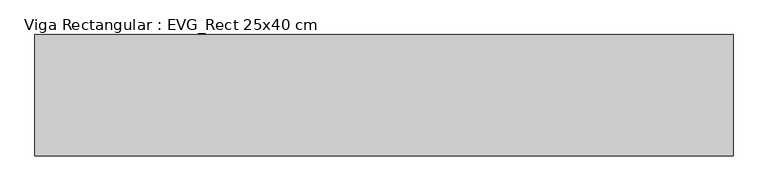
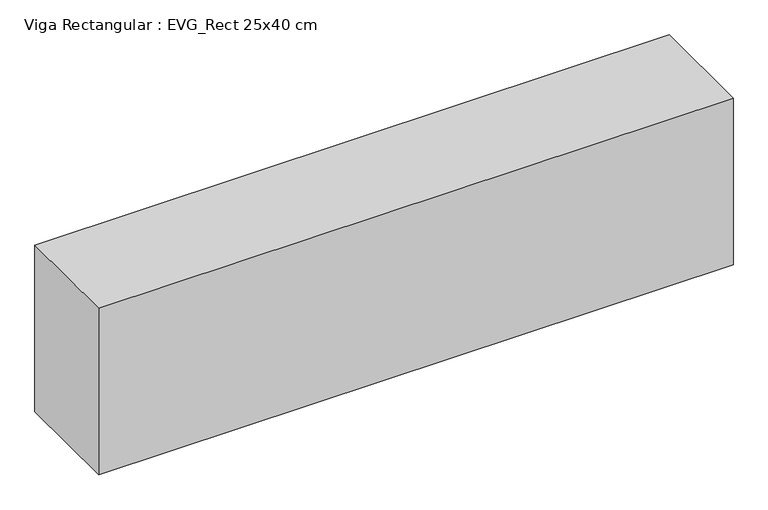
"""IFC4 building model written with IfcOpenShell, lengths in millimetres: beam geometry, Viga Rectangular : EVG_Rect 25x40 cm."""

from ifc_helpers import new_model, si_unit, frame, origin, place, context, project, spatial, polyline, outline, extrude, source, transform, mapped, element, save


def viga_rectangular_evg_rect_25x40_cm_6a1f8600(model_context):
    return source(origin(), model_context, "Body", "SweptSolid", [
        extrude(outline(polyline([(760.0, 125.0), (760.0, -125.0), (-680.0, -125.0), (-680.0, 125.0), (760.0, 125.0)])), frame((0.0, 0.0, -400.0), z_axis=(0.0, 0.0, 1.0), x_axis=(1.0, 0.0, 0.0)), (0.0, 0.0, 1.0), 400.0),
    ])


if __name__ == "__main__":
    model = new_model("IFC4")
    model_context = context("Model", 3, world=origin())
    ifc_project = project(units=[si_unit("LENGTHUNIT", "METRE", prefix="MILLI")], contexts=[model_context])
    site = spatial("IfcSite", under=ifc_project)
    building = spatial("IfcBuilding", under=site)
    placement = place(None, origin())
    viga_rectangular_evg_rect_25x40_cm_shape = viga_rectangular_evg_rect_25x40_cm_6a1f8600(model_context)
    element("IfcBeam", 1, ObjectType="Viga Rectangular : EVG_Rect 25x40 cm", at=placement, inside=building, context=model_context, shape_type="MappedRepresentation", body=[
        mapped(viga_rectangular_evg_rect_25x40_cm_shape, transform((0.0, 0.0, 0.0), x_axis=(1.0, 0.0, 0.0), y_axis=(0.0, 1.0, 0.0), z_axis=(0.0, 0.0, 1.0))),
    ])
    save(model, "model.ifc")
